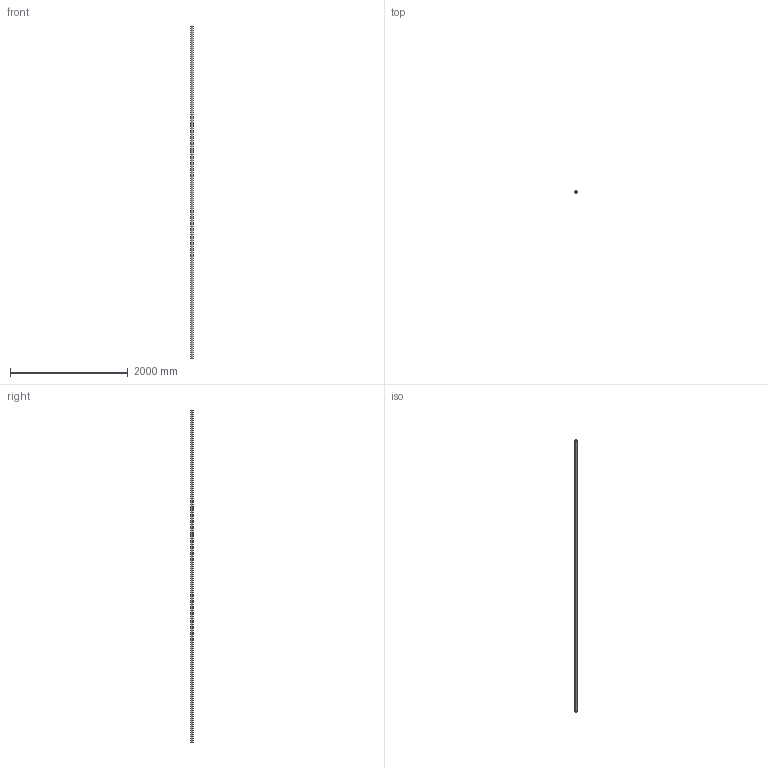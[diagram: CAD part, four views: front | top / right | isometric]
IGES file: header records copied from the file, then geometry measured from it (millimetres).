
Start section: SolidWorks IGES file using analytic representation for surfaces
Global section: file name: C:\Users\IanO\Desktop\L1771_v2\L1771.40_v2\L1771.40_v2_20230705_IGES\L1771.40-5650.igs; native system: SolidWorks 2019; preprocessor: SolidWorks 2019; author: IanO; date: 230705.163256; units: millimetre
Bounding box: 40 x 40 x 5650 mm (x, y, z)
Surface area: 1208281.7 mm2 (no closed solid volume)
Topology: 0 solids, 0 shells, 6 faces, 272 edges, 272 vertices
Faces by surface type: revolution 4, bspline 2
